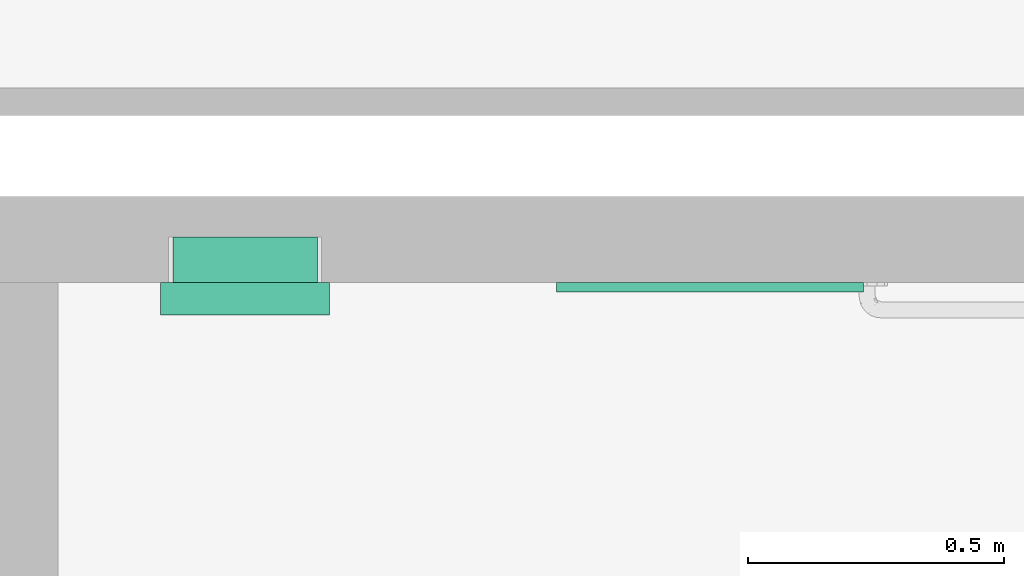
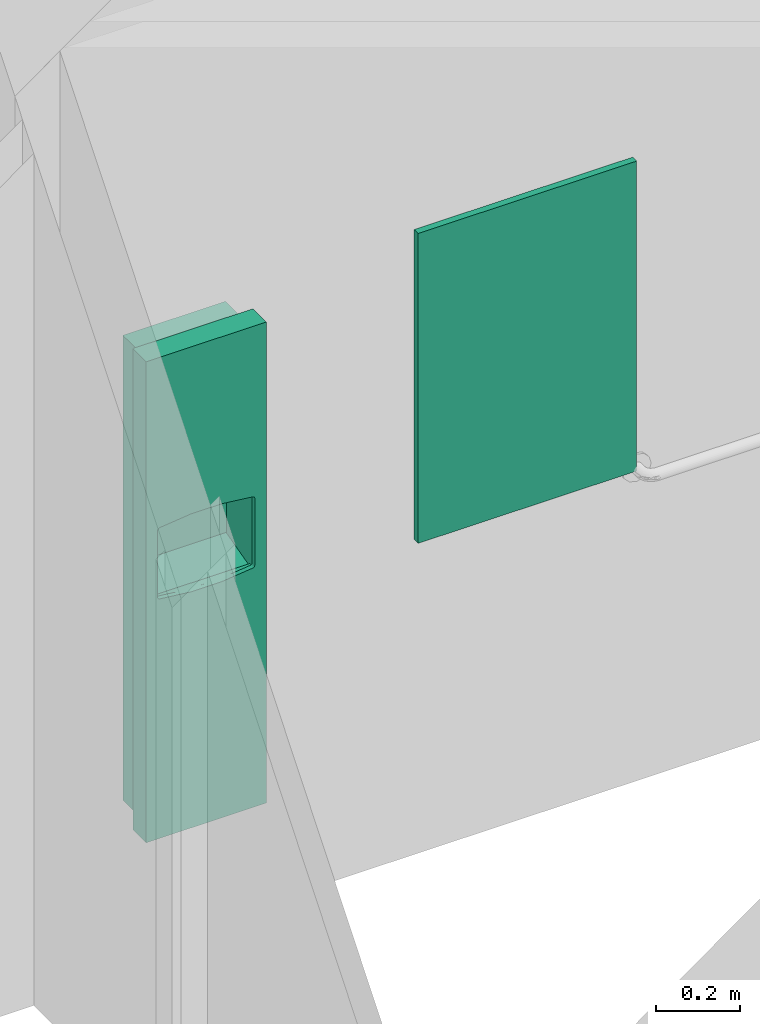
# One storey, part 35 of 45: 2 flow terminals.
"""IFC2X3 building model written with IfcOpenShell, lengths in metres."""

from ifc_helpers import new_model, entity, si_unit, converted_unit, frame, origin, origin_2d_with_axis, place, context, project, spatial, rectangle, extrude, face_set, surface_model, source, transform, mapped, type_object, type_shapes, element, save


model = new_model("IFC2X3")

# Units and contexts
model_context = context("Model", 3, precision=1e-09, world=origin())
plan_context = context("Plan", 3, precision=1e-09, world=origin())
ifc_project = project(units=[si_unit("LENGTHUNIT", "METRE"), si_unit("AREAUNIT", "SQUARE_METRE"), si_unit("VOLUMEUNIT", "CUBIC_METRE"), converted_unit("PLANEANGLEUNIT", "DEGREE", entity("IfcRatioMeasure", 0.01745329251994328), si_unit("PLANEANGLEUNIT", "RADIAN"), dimensions=[0, 0, 0, 0, 0, 0, 0]), si_unit("TIMEUNIT", "SECOND")], contexts=[model_context, plan_context])

# Site, building, storey, space
site_placement = place(None, origin())
site = spatial("IfcSite", under=ifc_project, at=site_placement, Name="Default", CompositionType="ELEMENT")
building_placement = place(site_placement, origin())
building = spatial("IfcBuilding", under=site, at=building_placement, CompositionType="ELEMENT")
storey_placement = place(building_placement, frame((0.0, 0.0, 4.570000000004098)))
storey = spatial("IfcBuildingStorey", under=building, at=storey_placement, Name="Second Floor", CompositionType="ELEMENT", Elevation=4.570000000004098)
space_placement = place(storey_placement, origin())
space = spatial("IfcSpace", under=storey, at=space_placement, Name="2B22", CompositionType="ELEMENT", InteriorOrExteriorSpace="INTERNAL")

# Flow terminals
sanitary_terminal_type_1 = type_object("IfcSanitaryTerminalType", Name="Semi-Recessed", PredefinedType="NOTDEFINED")
shared_shape_1 = source(origin(), model_context, "Body", "SurfaceModel", [
    surface_model("IfcFaceBasedSurfaceModel", [(0.3047999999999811, 1.371600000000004, 0.006350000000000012), (0.02539999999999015, 1.371600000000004, 0.006350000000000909), (0.02539999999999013, 0.02540000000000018, 0.006350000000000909), (0.3047999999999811, 0.02540000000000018, 0.006350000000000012), (0.3047999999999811, 1.371600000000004, 0.0), (0.02539999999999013, 1.371600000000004, 0.0), (0.02539999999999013, 0.02540000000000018, 0.0), (0.3047999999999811, 0.02540000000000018, 0.0), (0.3047999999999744, 0.8683625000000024, 0.0314087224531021), (0.304799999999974, 0.8683625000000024, 0.0), (0.304799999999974, 1.371600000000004, 0.0), (0.3047999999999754, 1.371600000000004, 0.1396999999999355), (0.3047999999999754, 0.9274310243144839, 0.139699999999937), (0.3047999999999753, 0.9028355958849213, 0.1191121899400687), (0.304799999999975, 0.8840898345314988, 0.09308548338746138), (0.3047999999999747, 0.8723562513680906, 0.06323391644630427), (0.02539999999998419, 0.8683625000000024, 0.03140872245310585), (0.02539999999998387, 0.8683625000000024, 0.0), (0.02539999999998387, 1.371600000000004, 0.0), (0.02539999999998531, 1.371600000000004, 0.1396999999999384), (0.02539999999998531, 0.9274310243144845, 0.1396999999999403), (0.02539999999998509, 0.9028355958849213, 0.1191121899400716), (0.02539999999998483, 0.8840898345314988, 0.09308548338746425), (0.02539999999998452, 0.8723562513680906, 0.06323391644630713), (0.1650999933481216, 0.8971245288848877, 0.1125374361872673), (0.244423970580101, 0.8850007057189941, 0.0947267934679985), (0.3048000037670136, 0.8934627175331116, 0.1060988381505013), (0.225727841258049, 0.8897196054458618, 0.1024402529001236), (0.1240624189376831, 0.8936511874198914, 0.1080563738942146), (0.1443802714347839, 0.89626145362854, 0.1114614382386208), (0.02539999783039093, 0.8934627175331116, 0.1060988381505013), (0.2975995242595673, 0.8728225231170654, 0.06500939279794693), (0.2961554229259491, 0.8724397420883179, 0.06352298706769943), (0.08576729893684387, 0.8849983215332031, 0.09472260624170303), (0.05923719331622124, 0.8781034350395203, 0.0805450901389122), (0.06810294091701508, 0.8800443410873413, 0.08500713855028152), (0.02539999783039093, 0.8811564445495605, 0.08562259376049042), (0.03954862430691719, 0.8766331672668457, 0.07681932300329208), (0.04958875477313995, 0.8769928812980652, 0.07776296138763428), (0.02539999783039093, 0.8782230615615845, 0.07815969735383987), (0.03264534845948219, 0.875198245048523, 0.07281118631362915), (0.02539999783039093, 0.8767563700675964, 0.0744282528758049), (0.02539999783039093, 0.87602299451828, 0.07256253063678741), (0.2946777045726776, 0.8762261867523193, 0.07572414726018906), (0.3048000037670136, 0.8767563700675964, 0.0744282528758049), (0.3048000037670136, 0.8774896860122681, 0.07629397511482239), (0.2906513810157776, 0.8717893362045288, 0.0609215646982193), (0.3048000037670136, 0.871357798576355, 0.05527761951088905), (0.3048000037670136, 0.8718570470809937, 0.05925576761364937), (0.02539999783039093, 0.874556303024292, 0.06883108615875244), (0.03170676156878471, 0.8735430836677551, 0.0675705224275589), (0.03171554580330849, 0.8739543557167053, 0.06892137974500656), (0.104461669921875, 0.889717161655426, 0.1024366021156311), (0.02539999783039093, 0.8752896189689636, 0.07069680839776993), (0.03172433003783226, 0.8743656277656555, 0.07027223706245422), (0.03218483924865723, 0.8747819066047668, 0.07154171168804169), (0.185808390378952, 0.8962624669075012, 0.1114626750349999), (0.3048000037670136, 0.8703593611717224, 0.04732131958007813), (0.2280749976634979, 0.8709259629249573, 0.05697767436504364), (0.2061262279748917, 0.8936530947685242, 0.1080589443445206), (0.3048000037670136, 0.8752896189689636, 0.07069680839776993), (0.297547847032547, 0.8752022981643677, 0.07282306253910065), (0.2980738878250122, 0.8745774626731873, 0.0708826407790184), (0.2985999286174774, 0.8739525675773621, 0.06894221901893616), (0.3048000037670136, 0.874556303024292, 0.06883108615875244), (0.2709419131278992, 0.8781068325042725, 0.08055329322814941), (0.3048000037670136, 0.8811564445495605, 0.08562259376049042), (0.2620970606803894, 0.8800443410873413, 0.08500713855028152), (0.2805894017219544, 0.8769944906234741, 0.07776710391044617), (0.3048000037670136, 0.8782230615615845, 0.07815969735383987), (0.03435983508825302, 0.8722586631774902, 0.06284872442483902), (0.02539999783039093, 0.872106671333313, 0.06124484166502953), (0.0367727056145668, 0.8719081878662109, 0.06142202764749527), (0.2906513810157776, 0.8766331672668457, 0.07681932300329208), (0.02539999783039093, 0.8718570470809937, 0.05925576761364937), (0.3048000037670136, 0.8738229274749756, 0.06696536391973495), (0.2980997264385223, 0.8733875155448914, 0.06697580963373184), (0.3048000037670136, 0.872106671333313, 0.06124484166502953), (0.2947112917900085, 0.8720570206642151, 0.06203658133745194), (0.02539999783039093, 0.8738229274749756, 0.06696536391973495), (0.3048000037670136, 0.873089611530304, 0.06509964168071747), (0.02539999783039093, 0.8774896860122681, 0.07629397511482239), (0.03438528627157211, 0.8759323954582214, 0.07491400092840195), (0.03677724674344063, 0.8764464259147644, 0.07632055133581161), (0.03261014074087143, 0.8728178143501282, 0.0649920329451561), (0.02539999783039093, 0.8703593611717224, 0.04732131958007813), (0.1650999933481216, 0.8683624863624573, 0.03140872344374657), (0.03954862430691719, 0.8717893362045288, 0.0609215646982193), (0.1021250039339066, 0.8709259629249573, 0.05697767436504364), (0.02539999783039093, 0.871357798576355, 0.05527761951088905), (0.02539999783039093, 0.873089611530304, 0.06509964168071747), (0.2961127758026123, 0.8757142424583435, 0.07427360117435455), (0.3048000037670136, 0.87602299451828, 0.07256253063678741), (0.1650999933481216, 0.8701865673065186, 0.05300865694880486), (0.03954862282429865, 0.9617593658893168, 0.06092156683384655), (0.1650999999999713, 0.9617593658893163, 0.05300865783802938), (0.2906513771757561, 0.9617593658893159, 0.06092156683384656), (0.2927086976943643, 0.9617593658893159, 0.06119241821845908), (0.2946258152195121, 0.9617593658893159, 0.06198651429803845), (0.2962720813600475, 0.9617593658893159, 0.06324973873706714), (0.2975353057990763, 0.9617593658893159, 0.06489600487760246), (0.2983294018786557, 0.9617593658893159, 0.06681312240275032), (0.2986002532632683, 0.9617593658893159, 0.06887044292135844), (0.2983294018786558, 0.9617593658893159, 0.07092776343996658), (0.2975353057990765, 0.9617593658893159, 0.0728448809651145), (0.2962720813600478, 0.9617593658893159, 0.07449114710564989), (0.2946258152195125, 0.9617593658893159, 0.07575437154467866), (0.2927086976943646, 0.9617593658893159, 0.07654846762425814), (0.2906513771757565, 0.9617593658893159, 0.07681931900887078), (0.2806776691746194, 0.9617593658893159, 0.07775040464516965), (0.2710486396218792, 0.9617593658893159, 0.0805114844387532), (0.2620970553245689, 0.9617593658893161, 0.0850071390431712), (0.2316919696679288, 0.9617593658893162, 0.1002429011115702), (0.1989754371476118, 0.9617593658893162, 0.1095287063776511), (0.1651000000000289, 0.9617593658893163, 0.1125374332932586), (0.1312245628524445, 0.9617593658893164, 0.109528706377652), (0.09850803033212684, 0.9617593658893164, 0.1002429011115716), (0.06810294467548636, 0.9617593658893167, 0.08500713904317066), (0.05915136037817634, 0.9617593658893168, 0.08051148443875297), (0.04952233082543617, 0.9617593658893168, 0.07775040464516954), (0.03954862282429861, 0.9617593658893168, 0.07681931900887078), (0.03749130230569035, 0.9617593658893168, 0.0765484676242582), (0.03557418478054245, 0.9617593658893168, 0.07575437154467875), (0.03392791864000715, 0.9617593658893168, 0.07449114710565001), (0.03266469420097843, 0.9617593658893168, 0.07284488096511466), (0.03187059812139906, 0.9617593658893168, 0.07092776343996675), (0.03159974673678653, 0.9617593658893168, 0.06887044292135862), (0.03187059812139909, 0.9617593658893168, 0.06681312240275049), (0.03266469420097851, 0.9617593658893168, 0.0648960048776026), (0.03392791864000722, 0.9617593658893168, 0.06324973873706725), (0.03557418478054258, 0.9617593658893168, 0.06198651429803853), (0.03749130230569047, 0.9617593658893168, 0.06119241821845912), (0.3302000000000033, 1.397000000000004, 0.1523999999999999), (0.0, 1.397000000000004, 0.152400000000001), (0.0, 0.0, 0.152400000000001), (0.3302000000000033, 0.0, 0.1523999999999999), (0.03175000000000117, 0.7016793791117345, 0.1524000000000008), (0.03175000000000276, 0.8960819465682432, 0.1524000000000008), (0.03192255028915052, 0.8975521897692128, 0.1524000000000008), (0.03243082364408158, 0.8989425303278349, 0.1524000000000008), (0.03324719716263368, 0.9001774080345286, 0.1524000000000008), (0.03432730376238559, 0.9011897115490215, 0.1524000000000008), (0.03561244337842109, 0.9019244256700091, 0.1524000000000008), (0.03703277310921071, 0.9023416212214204, 0.1524000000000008), (0.1222300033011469, 0.9119737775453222, 0.1524000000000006), (0.2079699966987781, 0.911973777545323, 0.1524000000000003), (0.2931672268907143, 0.902341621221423, 0.1524), (0.2945875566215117, 0.9019244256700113, 0.1524), (0.2958726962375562, 0.9011897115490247, 0.1524), (0.2969528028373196, 0.9001774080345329, 0.1524), (0.297769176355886, 0.8989425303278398, 0.1524), (0.2982774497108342, 0.8975521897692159, 0.1524), (0.2984500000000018, 0.8960819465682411, 0.1524), (0.2984500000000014, 0.7016793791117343, 0.1524), (0.2982774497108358, 0.7002091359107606, 0.1524), (0.2977691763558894, 0.6988187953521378, 0.1524), (0.2969528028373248, 0.697583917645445, 0.1524), (0.2958726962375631, 0.6965716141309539, 0.1524), (0.29458755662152, 0.6958369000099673, 0.1524), (0.2931672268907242, 0.6954197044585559, 0.1524), (0.2079699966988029, 0.6857875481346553, 0.1524000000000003), (0.1222300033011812, 0.6857875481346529, 0.1524000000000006), (0.03703277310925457, 0.6954197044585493, 0.1524000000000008), (0.03561244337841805, 0.6958369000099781, 0.1524000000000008), (0.0343273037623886, 0.6965716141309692, 0.1524000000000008), (0.03324719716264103, 0.6975839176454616, 0.1524000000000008), (0.03243082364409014, 0.698818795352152, 0.1524000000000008), (0.03192255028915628, 0.7002091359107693, 0.1524000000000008), (0.3063874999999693, 1.373187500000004, 0.0), (0.02381249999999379, 1.373187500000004, 0.0), (0.02381249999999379, 0.02381250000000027, 0.0), (0.3063874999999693, 0.02381250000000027, 0.0), (0.3047999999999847, 1.371600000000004, 0.0), (0.3047999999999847, 0.02540000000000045, 0.0), (0.02539999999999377, 0.02540000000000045, 0.0), (0.02539999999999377, 1.371600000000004, 0.0), (0.304799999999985, 1.371600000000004, 0.08889999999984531), (0.3047999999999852, 1.371600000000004, 0.1396999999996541), (0.3047999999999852, 0.02540000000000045, 0.1396999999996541), (0.304799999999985, 0.02540000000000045, 0.08889999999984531), (0.02539999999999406, 0.02540000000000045, 0.08889999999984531), (0.02539999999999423, 0.02540000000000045, 0.139699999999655), (0.02539999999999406, 1.371600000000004, 0.08889999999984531), (0.02539999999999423, 1.371600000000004, 0.139699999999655), (0.02381249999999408, 1.373187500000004, 0.08889999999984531), (0.3063874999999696, 1.373187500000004, 0.08889999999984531), (0.02381249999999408, 0.02381250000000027, 0.08889999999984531), (0.3063874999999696, 0.02381250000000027, 0.08889999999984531), (0.3302000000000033, 1.397000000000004, 0.08889999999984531), (0.0, 1.397000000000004, 0.08889999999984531), (0.0, 0.0, 0.08889999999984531), (0.3302000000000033, 0.0, 0.08889999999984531), (0.3302000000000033, 1.397000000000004, 0.1396999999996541), (0.0, 1.397000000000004, 0.1396999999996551), (0.0, 0.0, 0.1396999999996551), (0.3302000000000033, 0.0, 0.1396999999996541), (0.0317500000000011, 0.7016793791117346, 0.139699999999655), (0.03175000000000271, 0.8960819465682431, 0.139699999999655), (0.03192255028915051, 0.8975521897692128, 0.139699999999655), (0.03243082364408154, 0.8989425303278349, 0.139699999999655), (0.03324719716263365, 0.9001774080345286, 0.139699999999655), (0.03432730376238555, 0.9011897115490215, 0.139699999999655), (0.03561244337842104, 0.9019244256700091, 0.139699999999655), (0.03703277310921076, 0.9023416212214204, 0.139699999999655), (0.1222300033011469, 0.9119737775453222, 0.1396999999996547), (0.207969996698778, 0.911973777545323, 0.1396999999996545), (0.2931672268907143, 0.902341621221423, 0.1396999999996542), (0.2945875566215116, 0.9019244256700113, 0.1396999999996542), (0.2958726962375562, 0.9011897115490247, 0.1396999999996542), (0.2969528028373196, 0.9001774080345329, 0.1396999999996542), (0.2977691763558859, 0.8989425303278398, 0.1396999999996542), (0.2982774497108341, 0.8975521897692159, 0.1396999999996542), (0.2984500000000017, 0.8960819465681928, 0.1396999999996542), (0.2984500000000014, 0.7016793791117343, 0.1396999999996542), (0.2982774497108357, 0.7002091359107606, 0.1396999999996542), (0.2977691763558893, 0.6988187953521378, 0.1396999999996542), (0.2969528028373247, 0.697583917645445, 0.1396999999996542), (0.295872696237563, 0.6965716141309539, 0.1396999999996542), (0.29458755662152, 0.6958369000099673, 0.1396999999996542), (0.2931672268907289, 0.6954197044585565, 0.1396999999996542), (0.2079699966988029, 0.6857875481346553, 0.1396999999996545), (0.1222300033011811, 0.6857875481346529, 0.1396999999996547), (0.0370327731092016, 0.6954197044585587, 0.139699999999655), (0.03561244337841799, 0.6958369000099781, 0.139699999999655), (0.03432730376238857, 0.6965716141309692, 0.139699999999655), (0.03324719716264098, 0.6975839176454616, 0.139699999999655), (0.03243082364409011, 0.698818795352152, 0.139699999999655), (0.03192255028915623, 0.7002091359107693, 0.139699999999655), (0.02698749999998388, 0.6774923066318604, 0.1206361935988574), (0.02698749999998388, 0.6858000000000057, 0.1206361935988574), (0.02698749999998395, 0.6858000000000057, 0.1397000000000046), (0.02698749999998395, 0.0253999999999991, 0.1397000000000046), (0.02698749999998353, 0.0253999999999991, 0.007937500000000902), (0.02698749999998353, 0.7076898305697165, 0.007937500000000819), (0.3032124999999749, 0.6774923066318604, 0.1206361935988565), (0.3032124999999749, 0.6858000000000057, 0.1206361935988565), (0.3032124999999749, 0.6858000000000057, 0.1397000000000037), (0.3032124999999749, 0.0253999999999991, 0.1397000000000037), (0.3032124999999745, 0.0253999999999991, 0.007937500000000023), (0.3032124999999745, 0.7076898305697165, 0.007937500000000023)], [face_set([[[0, 1, 2, 3]], [[4, 5, 6, 7]], [[1, 0, 4, 5]], [[2, 6, 5, 1]], [[3, 7, 6, 2]], [[0, 3, 7, 4]]]), face_set([[[8, 9, 10, 11, 12, 13, 14, 15]], [[16, 17, 18, 19, 20, 21, 22, 23]], [[9, 8, 16, 17]], [[10, 18, 17, 9]], [[11, 19, 18, 10]], [[12, 11, 19, 20]], [[24, 20, 21]], [[25, 26, 27]], [[28, 29, 21]], [[28, 21, 30]], [[15, 31, 32]], [[22, 33, 30]], [[24, 21, 29]], [[34, 35, 36]], [[37, 38, 39]], [[40, 41, 42]], [[39, 38, 34]], [[22, 35, 33]], [[39, 34, 36]], [[43, 44, 45]], [[46, 47, 48]], [[49, 50, 51]], [[33, 52, 30]], [[53, 54, 55]], [[24, 56, 13]], [[57, 47, 58]], [[24, 13, 12]], [[13, 56, 59]], [[59, 27, 26]], [[60, 61, 62]], [[62, 63, 64]], [[24, 12, 20]], [[55, 42, 53]], [[65, 66, 67]], [[25, 67, 14]], [[25, 14, 26]], [[65, 68, 69]], [[66, 65, 69]], [[70, 71, 72]], [[69, 68, 73]], [[72, 71, 74]], [[26, 13, 59]], [[54, 53, 49]], [[64, 60, 62]], [[75, 63, 76]], [[46, 77, 78]], [[79, 50, 49]], [[80, 76, 31]], [[39, 81, 37]], [[41, 82, 81]], [[49, 51, 54]], [[81, 82, 83]], [[40, 82, 41]], [[70, 84, 23]], [[84, 50, 79]], [[85, 16, 86]], [[28, 30, 52]], [[70, 23, 71]], [[87, 72, 74]], [[85, 88, 89]], [[87, 89, 88]], [[74, 89, 87]], [[84, 90, 23]], [[58, 47, 46]], [[35, 22, 36]], [[63, 75, 64]], [[91, 61, 92]], [[45, 73, 43]], [[80, 75, 76]], [[61, 60, 92]], [[15, 32, 78]], [[45, 69, 73]], [[92, 44, 91]], [[66, 14, 67]], [[84, 79, 90]], [[85, 93, 88]], [[86, 57, 93]], [[31, 15, 80]], [[77, 15, 78]], [[42, 55, 40]], [[58, 93, 57]], [[77, 46, 48]], [[8, 57, 86]], [[37, 81, 83]], [[44, 43, 91]], [[85, 86, 93]], [[94, 95, 96, 97, 98, 99, 100, 101, 102, 103, 104, 105, 106, 107, 108, 109, 110, 111, 112, 113, 114, 115, 116, 117, 118, 119, 120, 121, 122, 123, 124, 125, 126, 127, 128, 129, 130, 131]], [[95, 94, 87, 88, 93]], [[96, 95, 93, 58, 46]], [[46, 96, 97]], [[78, 98, 99]], [[97, 98, 78]], [[99, 100, 31]], [[46, 97, 78]], [[63, 31, 101]], [[31, 78, 99]], [[63, 101, 102]], [[101, 31, 100]], [[61, 104, 105]], [[43, 106, 107]], [[105, 106, 43]], [[73, 107, 108]], [[63, 103, 61]], [[103, 63, 102]], [[61, 103, 104]], [[61, 105, 43]], [[107, 73, 43]], [[108, 68, 73]], [[68, 108, 109]], [[109, 65, 68]], [[110, 67, 65]], [[67, 110, 111]], [[109, 110, 65]], [[111, 112, 25]], [[25, 67, 111]], [[27, 25, 112]], [[112, 59, 27]], [[113, 114, 56]], [[56, 59, 113]], [[24, 56, 114]], [[113, 59, 112]], [[114, 115, 29]], [[29, 24, 114]], [[28, 29, 115]], [[115, 116, 28]], [[116, 117, 33]], [[33, 52, 116]], [[35, 33, 117]], [[116, 52, 28]], [[118, 34, 35]], [[35, 117, 118]], [[118, 119, 34]], [[120, 37, 38]], [[38, 119, 120]], [[34, 119, 38]], [[37, 120, 121]], [[82, 122, 123]], [[121, 122, 83]], [[123, 124, 40]], [[37, 121, 83]], [[83, 122, 82]], [[40, 125, 54]], [[40, 82, 123]], [[54, 125, 126]], [[40, 124, 125]], [[84, 127, 128]], [[129, 84, 128]], [[72, 130, 131]], [[129, 130, 70]], [[87, 131, 94]], [[127, 50, 126]], [[127, 84, 50]], [[126, 50, 54]], [[70, 84, 129]], [[130, 72, 70]], [[131, 87, 72]]]), face_set([[[132, 133, 134, 135], [136, 137, 138, 139, 140, 141, 142, 143, 144, 145, 146, 147, 148, 149, 150, 151, 152, 153, 154, 155, 156, 157, 158, 159, 160, 161, 162, 163, 164, 165, 166, 167]], [[168, 169, 170, 171], [172, 173, 174, 175]], [[172, 176, 177, 178, 179, 173]], [[173, 174, 180, 181, 178, 179]], [[174, 175, 182, 183, 181, 180]], [[175, 182, 183, 177, 176, 172]], [[168, 169, 184, 185]], [[169, 184, 186, 170]], [[170, 186, 187, 171]], [[171, 168, 185, 187]], [[188, 189, 190, 191], [185, 187, 186, 184]], [[133, 132, 192, 188, 189, 193]], [[134, 133, 193, 189, 190, 194]], [[135, 134, 194, 190, 191, 195]], [[132, 135, 195, 191, 188, 192]], [[177, 183, 181, 178], [196, 197, 198, 199, 200, 201, 202, 203, 204, 205, 206, 207, 208, 209, 210, 211, 212, 213, 214, 215, 216, 217, 218, 219, 220, 221, 222, 223, 224, 225, 226, 227]], [[137, 136, 196, 197]], [[198, 197, 137, 138]], [[199, 198, 138, 139]], [[139, 140, 200, 199]], [[202, 201, 141, 142]], [[203, 202, 142, 143]], [[140, 141, 201, 200]], [[203, 143, 144, 204]], [[145, 205, 204, 144]], [[205, 145, 146, 206]], [[207, 206, 146, 147]], [[208, 207, 147, 148]], [[148, 149, 209, 208]], [[212, 211, 151, 152]], [[211, 210, 150, 151]], [[149, 150, 210, 209]], [[153, 213, 212, 152]], [[214, 213, 153, 154]], [[215, 214, 154, 155]], [[155, 156, 216, 215]], [[218, 217, 157, 158]], [[219, 218, 158, 159]], [[156, 157, 217, 216]], [[219, 159, 160, 220]], [[161, 221, 220, 160]], [[221, 161, 162, 222]], [[223, 222, 162, 163]], [[224, 223, 163, 164]], [[164, 165, 225, 224]], [[227, 226, 166, 167]], [[196, 227, 167, 136]], [[165, 166, 226, 225]]]), face_set([[[228, 229, 230, 231, 232, 233]], [[234, 235, 236, 237, 238, 239]], [[233, 228, 234, 239]], [[232, 238, 239, 233]], [[231, 237, 238, 232]], [[230, 231, 237, 236]], [[229, 230, 236, 235]], [[228, 234, 235, 229]]])]),
])
type_shapes(sanitary_terminal_type_1, [shared_shape_1])
flow_terminal_1_placement = place(space_placement, frame((-2.140000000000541, 14.70333871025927, 0.3428999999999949), z_axis=(0.0, -1.0, 0.0), x_axis=(1.0, 0.0, 0.0)))
element("IfcFlowTerminal", 1, at=flow_terminal_1_placement, inside=space, type_object=sanitary_terminal_type_1, Name="M_Towel Dispensers - receptical:Semi-Recessed:Semi-Recessed", ObjectType="Semi-Recessed", context=model_context, shape_type="MappedRepresentation", body=[
    mapped(shared_shape_1, transform((0.0, 0.0, 0.0), scale=1.0)),
])
sanitary_terminal_type_2 = type_object("IfcSanitaryTerminalType", Name="Mirror 600mm x 900mm", PredefinedType="NOTDEFINED")
shared_shape_2 = source(origin(), model_context, "Body", "SweptSolid", [
    extrude(rectangle(XDim=0.01905, YDim=0.5999999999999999, at=origin_2d_with_axis()), frame((0.02447030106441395, 0.093525, 1.0), z_axis=(0.0, 0.0, 1.0), x_axis=(0.0, -1.0, 0.0)), (0.0, 0.0, 1.0), 0.8999999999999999),
])
type_shapes(sanitary_terminal_type_2, [shared_shape_2])
flow_terminal_2_placement = place(space_placement, frame((-1.04252969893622, 14.69843871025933, -0.08499999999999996), z_axis=(0.0, 0.0, 1.0), x_axis=(-1.0, 0.0, 0.0)))
element("IfcFlowTerminal", 2, at=flow_terminal_2_placement, inside=space, type_object=sanitary_terminal_type_2, Name="M_Mirror:Mirror 600mm x 900mm:Mirror 600mm x 900mm", ObjectType="Mirror 600mm x 900mm", context=model_context, shape_type="MappedRepresentation", body=[
    mapped(shared_shape_2, transform((0.0, 0.0, 0.0), scale=1.0)),
])

save(model, "model.ifc")
